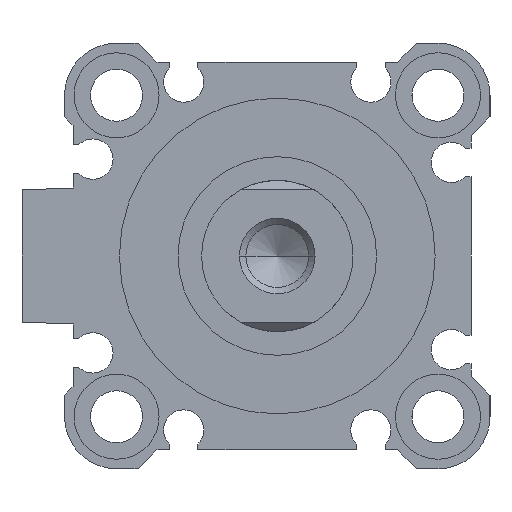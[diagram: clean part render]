
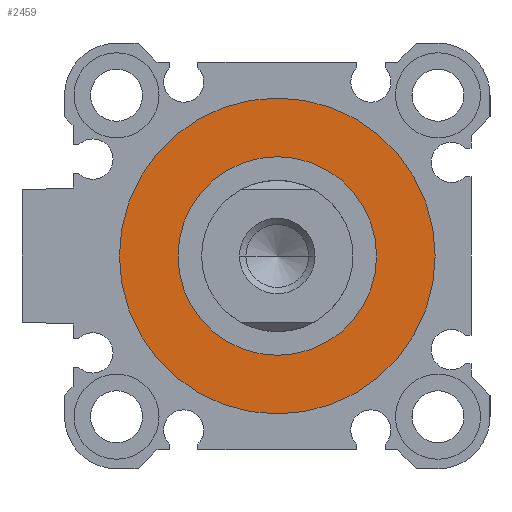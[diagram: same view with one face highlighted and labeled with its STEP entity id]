
A CAD part, left-side view. The second image highlights one B-rep face of the part: STEP entity #2459.
In plain terms, the highlighted planar face has unit normal (-1, 0, 0).
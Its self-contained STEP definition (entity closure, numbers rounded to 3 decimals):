
#50 = CARTESIAN_POINT ( 'NONE',  ( 2.1, 0., 10.5 ) ) ;
#229 = VERTEX_POINT ( 'NONE', #3263 ) ;
#375 = DIRECTION ( 'NONE',  ( 0., 1., 0. ) ) ;
#465 = VERTEX_POINT ( 'NONE', #3301 ) ;
#503 = EDGE_LOOP ( 'NONE', ( #3038, #1287 ) ) ;
#570 = EDGE_CURVE ( 'NONE', #465, #4892, #2672, .T. ) ;
#726 = DIRECTION ( 'NONE',  ( 0., 0., -1. ) ) ;
#774 = DIRECTION ( 'NONE',  ( 0., 0., -1. ) ) ;
#779 = PLANE ( 'NONE',  #2003 ) ;
#839 = EDGE_LOOP ( 'NONE', ( #2382, #2651 ) ) ;
#1157 = DIRECTION ( 'NONE',  ( 0., 0., -1. ) ) ;
#1163 = DIRECTION ( 'NONE',  ( 1., 0., 0. ) ) ;
#1287 = ORIENTED_EDGE ( 'NONE', *, *, #570, .T. ) ;
#1546 = CIRCLE ( 'NONE', #3166, 16.7 ) ;
#1637 = AXIS2_PLACEMENT_3D ( 'NONE', #4973, #4312, #774 ) ;
#2003 = AXIS2_PLACEMENT_3D ( 'NONE', #3958, #1163, #375 ) ;
#2174 = CARTESIAN_POINT ( 'NONE',  ( 2.1, 0., 16.7 ) ) ;
#2382 = ORIENTED_EDGE ( 'NONE', *, *, #4034, .F. ) ;
#2459 = ADVANCED_FACE ( 'NONE', ( #5028, #4319 ), #779, .F. ) ;
#2651 = ORIENTED_EDGE ( 'NONE', *, *, #2945, .F. ) ;
#2672 = CIRCLE ( 'NONE', #3841, 10.5 ) ;
#2771 = VERTEX_POINT ( 'NONE', #2174 ) ;
#2886 = DIRECTION ( 'NONE',  ( 0., 0., -1. ) ) ;
#2945 = EDGE_CURVE ( 'NONE', #229, #2771, #1546, .T. ) ;
#3038 = ORIENTED_EDGE ( 'NONE', *, *, #3880, .T. ) ;
#3166 = AXIS2_PLACEMENT_3D ( 'NONE', #3464, #4664, #1157 ) ;
#3263 = CARTESIAN_POINT ( 'NONE',  ( 2.1, 0., -16.7 ) ) ;
#3301 = CARTESIAN_POINT ( 'NONE',  ( 2.1, 0., -10.5 ) ) ;
#3464 = CARTESIAN_POINT ( 'NONE',  ( 2.1, 0., 0. ) ) ;
#3613 = AXIS2_PLACEMENT_3D ( 'NONE', #3642, #4717, #2886 ) ;
#3642 = CARTESIAN_POINT ( 'NONE',  ( 2.1, 0., 0. ) ) ;
#3828 = CARTESIAN_POINT ( 'NONE',  ( 2.1, 0., 0. ) ) ;
#3841 = AXIS2_PLACEMENT_3D ( 'NONE', #3828, #4977, #726 ) ;
#3880 = EDGE_CURVE ( 'NONE', #4892, #465, #4148, .T. ) ;
#3958 = CARTESIAN_POINT ( 'NONE',  ( 2.1, 0., 0. ) ) ;
#4034 = EDGE_CURVE ( 'NONE', #2771, #229, #4113, .T. ) ;
#4113 = CIRCLE ( 'NONE', #3613, 16.7 ) ;
#4148 = CIRCLE ( 'NONE', #1637, 10.5 ) ;
#4312 = DIRECTION ( 'NONE',  ( 1., 0., 0. ) ) ;
#4319 = FACE_BOUND ( 'NONE', #503, .T. ) ;
#4664 = DIRECTION ( 'NONE',  ( 1., 0., 0. ) ) ;
#4717 = DIRECTION ( 'NONE',  ( 1., 0., 0. ) ) ;
#4892 = VERTEX_POINT ( 'NONE', #50 ) ;
#4973 = CARTESIAN_POINT ( 'NONE',  ( 2.1, 0., 0. ) ) ;
#4977 = DIRECTION ( 'NONE',  ( 1., 0., 0. ) ) ;
#5028 = FACE_OUTER_BOUND ( 'NONE', #839, .T. ) ;
